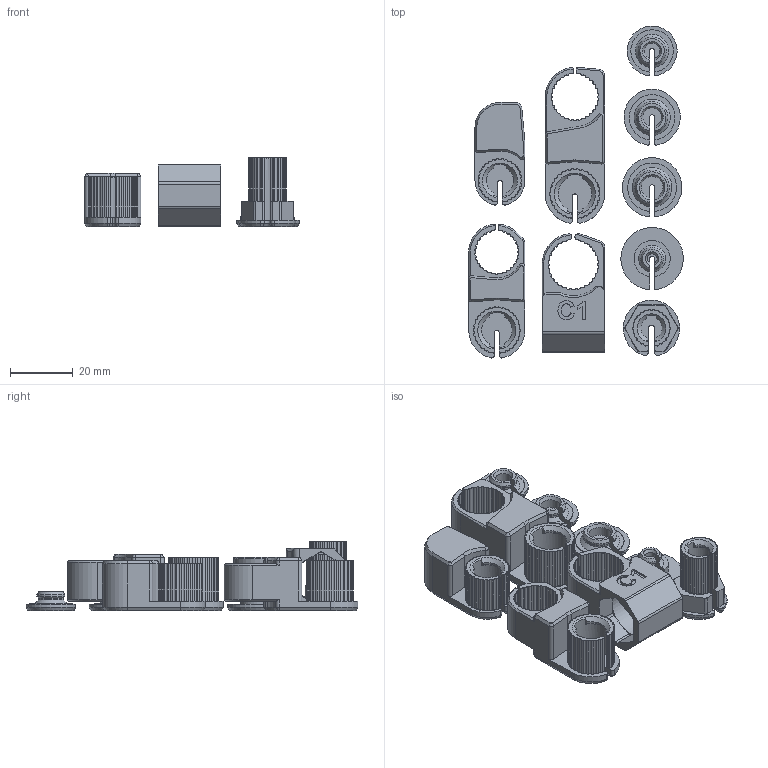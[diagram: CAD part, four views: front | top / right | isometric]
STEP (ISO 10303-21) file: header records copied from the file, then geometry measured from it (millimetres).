
FILE_DESCRIPTION (( 'STEP AP214' ), '1' );
FILE_NAME ('Robot Hand Finger C.STEP', '2024-06-24T13:52:38', ( '' ), ( '' ), 'SwSTEP 2.0', 'SolidWorks 2021', '' );
FILE_SCHEMA (( 'AUTOMOTIVE_DESIGN' ));
Length unit declared in the file: millimetre
Products named in the file (10): Finger C2; Finger C1; Finger C3; Robot Hand Finger C; Cover C3; Cover counterpart C0; Cover C1; Finger C4; Cover C2; Cover C0
Assembly tree (9 placements, depth 2):
  Robot Hand Finger C
    Finger C1
    Finger C2
    Finger C3
    Finger C4
    Cover counterpart C0
    Cover C0
    Cover C1
    Cover C2
    Cover C3
Bounding box: 68.67 x 106.23 x 22.1 mm (x, y, z)
Volume: 28216.4 mm3; surface area: 21880.6 mm2
Topology: 9 solids, 9 shells, 1078 faces, 2996 edges, 1957 vertices
Faces by surface type: cylinder 551, plane 270, bspline 157, cone 100
Full cylindrical faces by diameter (mm): 16 x1
Entity records: 43764 total; most frequent: CARTESIAN_POINT 16094, ORIENTED_EDGE 5986, DIRECTION 5562, EDGE_CURVE 2993, AXIS2_PLACEMENT_3D 2104, VERTEX_POINT 1956, VECTOR 1354, LINE 1354
